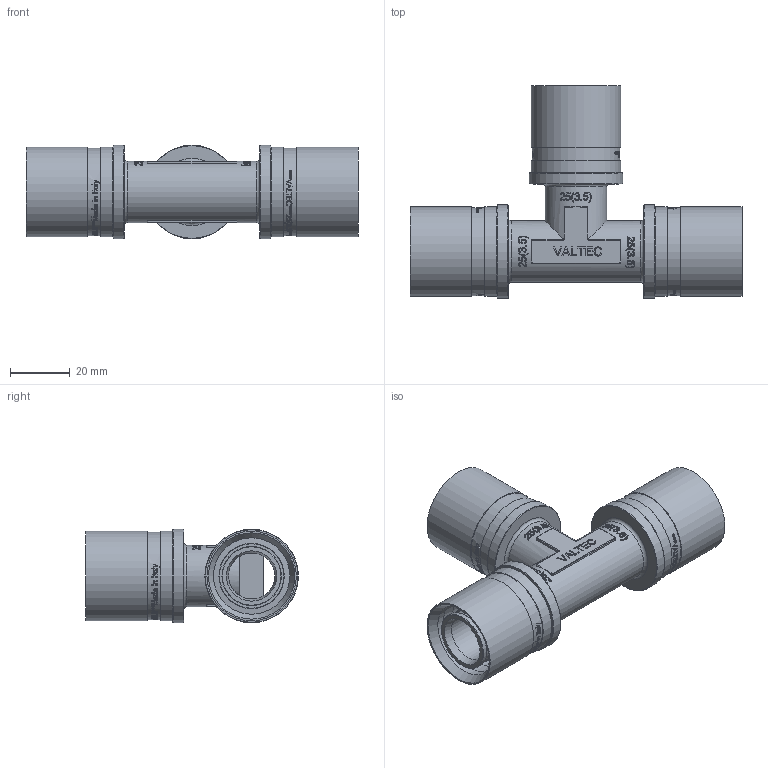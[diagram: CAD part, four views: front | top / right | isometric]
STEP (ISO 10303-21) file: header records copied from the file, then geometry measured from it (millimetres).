
FILE_DESCRIPTION(/* description */ (''),/* implementation_level */ '2;1');
FILE_NAME(/* name */ 'F:\Артём\00000\Работа удаленка\Аксеальные фитинги\VTm.431.BG.252525.stp',/* time_stamp */ '2021-01-26T13:02:03+03:00',/* author */ ('almis'),/* organization */ (''),/* preprocessor_version */ 'ST-DEVELOPER v18',/* originating_system */ 'Autodesk Inventor 2020',/* authorisation */ '');
FILE_SCHEMA (('AUTOMOTIVE_DESIGN { 1 0 10303 214 3 1 1 }'));
Length unit declared in the file: millimetre
Products named in the file (1): VTm.403.BG.001616
Bounding box: 110.82 x 71.01 x 31.2 mm (x, y, z)
Volume: 42778.6 mm3; surface area: 37110.2 mm2
Topology: 1 solids, 3 shells, 2592 faces, 7111 edges, 4768 vertices
Faces by surface type: bspline 1327, plane 875, cylinder 287, torus 85, cone 18
Full cylindrical faces by diameter (mm): 15.4 x2, 18.3 x15, 19.8 x12, 20.5 x2, 21.8 x3, 25.5 x6, 29.3 x3, 29.85 x6, 31.2 x3
Entity records: 107028 total; most frequent: CARTESIAN_POINT 48969, ORIENTED_EDGE 14198, DIRECTION 8266, EDGE_CURVE 7099, VERTEX_POINT 4768, LINE 3130, VECTOR 3130, EDGE_LOOP 2849
